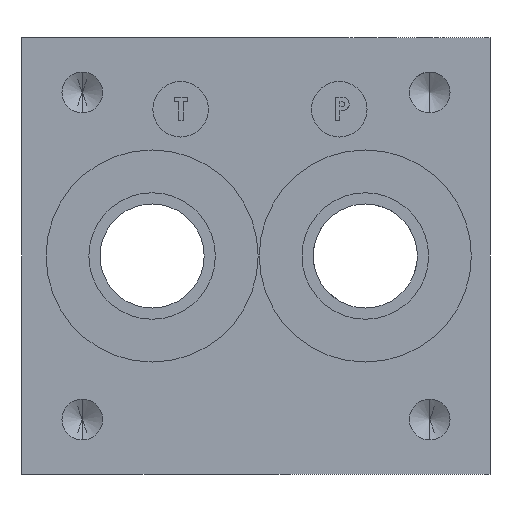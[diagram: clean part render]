
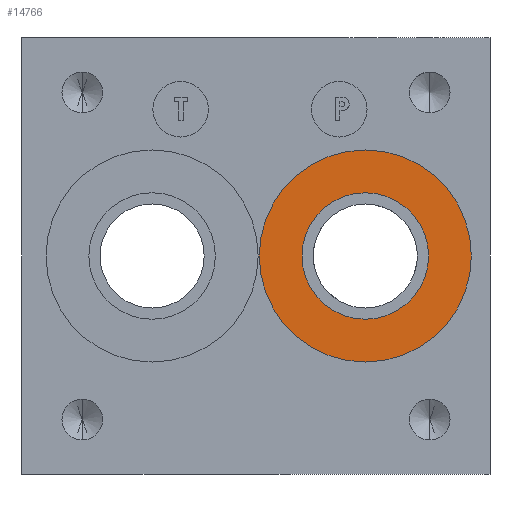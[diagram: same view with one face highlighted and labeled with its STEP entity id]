
A CAD part, left-side view. The second image highlights one B-rep face of the part: STEP entity #14766.
In plain terms, the highlighted planar face has unit normal (-1, 0, 0).
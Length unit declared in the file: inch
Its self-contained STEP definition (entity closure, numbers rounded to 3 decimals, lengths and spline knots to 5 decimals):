
#1016 = DIRECTION ( 'NONE',  ( 0., 0., 1. ) ) ;
#1233 = CARTESIAN_POINT ( 'NONE',  ( 0.031, 0.786, 1.375 ) ) ;
#1350 = CIRCLE ( 'NONE', #11426, 0.6684 ) ;
#1544 = VERTEX_POINT ( 'NONE', #14974 ) ;
#1666 = ORIENTED_EDGE ( 'NONE', *, *, #14446, .T. ) ;
#2168 = CIRCLE ( 'NONE', #7946, 0.39885 ) ;
#2208 = FACE_BOUND ( 'NONE', #7089, .T. ) ;
#2631 = DIRECTION ( 'NONE',  ( 0., 0., 1. ) ) ;
#4935 = CARTESIAN_POINT ( 'NONE',  ( 0.031, 0.786, 1.77385 ) ) ;
#4988 = DIRECTION ( 'NONE',  ( -1., 0., 0. ) ) ;
#5407 = CARTESIAN_POINT ( 'NONE',  ( 0.031, 0.786, 1.375 ) ) ;
#5441 = CARTESIAN_POINT ( 'NONE',  ( 0.031, 0.786, 0.7066 ) ) ;
#5454 = ORIENTED_EDGE ( 'NONE', *, *, #15688, .F. ) ;
#6430 = CARTESIAN_POINT ( 'NONE',  ( 0.031, 0.786, 1.375 ) ) ;
#7089 = EDGE_LOOP ( 'NONE', ( #5454, #13158 ) ) ;
#7366 = ORIENTED_EDGE ( 'NONE', *, *, #15709, .T. ) ;
#7460 = CIRCLE ( 'NONE', #11574, 0.39885 ) ;
#7619 = VERTEX_POINT ( 'NONE', #4935 ) ;
#7650 = DIRECTION ( 'NONE',  ( 0., 0., 1. ) ) ;
#7761 = AXIS2_PLACEMENT_3D ( 'NONE', #1233, #10184, #2631 ) ;
#7946 = AXIS2_PLACEMENT_3D ( 'NONE', #6430, #15100, #7650 ) ;
#8127 = DIRECTION ( 'NONE',  ( 0., 0., -1. ) ) ;
#8177 = CIRCLE ( 'NONE', #7761, 0.6684 ) ;
#8757 = DIRECTION ( 'NONE',  ( -1., 0., 0. ) ) ;
#9604 = EDGE_LOOP ( 'NONE', ( #7366, #1666 ) ) ;
#9773 = CARTESIAN_POINT ( 'NONE',  ( 0.031, 0.786, 2.0434 ) ) ;
#10184 = DIRECTION ( 'NONE',  ( -1., 0., 0. ) ) ;
#10539 = AXIS2_PLACEMENT_3D ( 'NONE', #5407, #15555, #8127 ) ;
#11426 = AXIS2_PLACEMENT_3D ( 'NONE', #16151, #8757, #1016 ) ;
#11574 = AXIS2_PLACEMENT_3D ( 'NONE', #12381, #4988, #13622 ) ;
#12381 = CARTESIAN_POINT ( 'NONE',  ( 0.031, 0.786, 1.375 ) ) ;
#13158 = ORIENTED_EDGE ( 'NONE', *, *, #14420, .F. ) ;
#13242 = VERTEX_POINT ( 'NONE', #5441 ) ;
#13622 = DIRECTION ( 'NONE',  ( 0., 0., 1. ) ) ;
#14314 = PLANE ( 'NONE',  #10539 ) ;
#14420 = EDGE_CURVE ( 'NONE', #1544, #7619, #7460, .T. ) ;
#14446 = EDGE_CURVE ( 'NONE', #13242, #15234, #1350, .T. ) ;
#14766 = ADVANCED_FACE ( 'NONE', ( #2208, #14833 ), #14314, .F. ) ;
#14833 = FACE_OUTER_BOUND ( 'NONE', #9604, .T. ) ;
#14974 = CARTESIAN_POINT ( 'NONE',  ( 0.031, 0.786, 0.97615 ) ) ;
#15100 = DIRECTION ( 'NONE',  ( -1., 0., 0. ) ) ;
#15234 = VERTEX_POINT ( 'NONE', #9773 ) ;
#15555 = DIRECTION ( 'NONE',  ( 1., 0., 0. ) ) ;
#15688 = EDGE_CURVE ( 'NONE', #7619, #1544, #2168, .T. ) ;
#15709 = EDGE_CURVE ( 'NONE', #15234, #13242, #8177, .T. ) ;
#16151 = CARTESIAN_POINT ( 'NONE',  ( 0.031, 0.786, 1.375 ) ) ;
